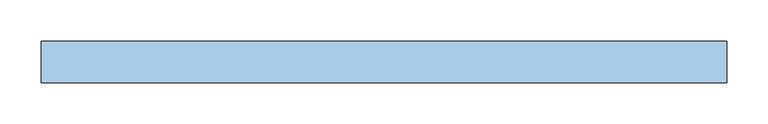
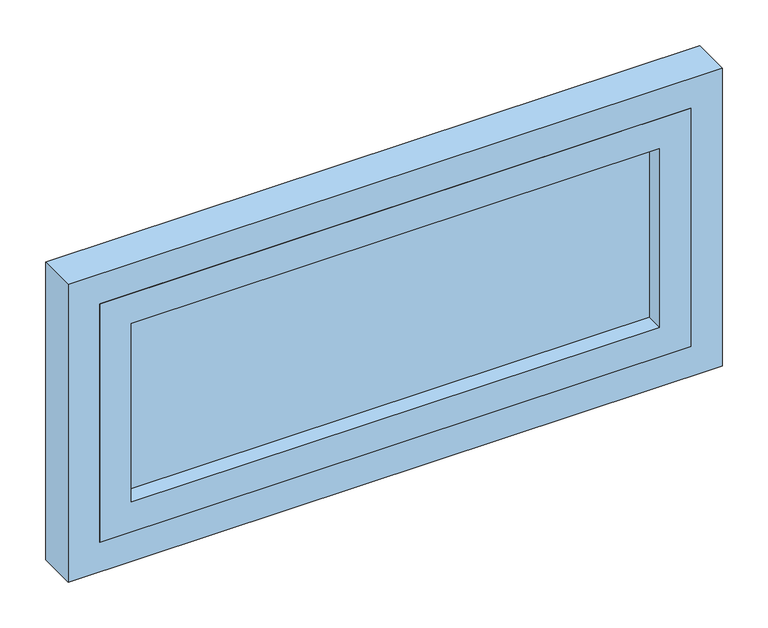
"""IFC4 building model written with IfcOpenShell, lengths in millimetres: window geometry, VENT_ALUM_PROY : VD-13b / PROY BAÑO 0.83 X 0.4."""

import ifcopenshell
import ifcopenshell.guid

model = None  # the IFC model being written
_history = None  # IfcOwnerHistory: only IFC2X3 demands one
_inside = {}  # id of a spatial element -> (the spatial element, [elements in it])
_under = {}  # id of a project, library or spatial element -> (it, [spatial elements below it])
_declared = {}  # id of a project -> (the project, [libraries it declares])
_typed = {}  # id of a type object -> (the type object, [elements of that type])
_made_of = {}  # id of a material, layer set ... -> (it, [elements and type objects made of it])


def new_model(schema):
    """Start an empty IFC model of exactly this schema.

    Asked for "IFC4X3", IfcOpenShell would pick the latest addendum, in which some entities
    have other attributes; the version numbers below select the first issue.
    IFC2X3 requires an IfcOwnerHistory on every rooted entity: one is made here for all.
    """
    global model, _history
    if schema == "IFC4X3":
        model = ifcopenshell.file(schema_version=(4, 3, 0, 0))
    else:
        model = ifcopenshell.file(schema=schema)
    _inside.clear()
    _under.clear()
    _declared.clear()
    _typed.clear()
    _made_of.clear()
    _history = None
    if model.schema == "IFC2X3":
        org = make("IfcOrganization", Name="unknown")
        user = make(
            "IfcPersonAndOrganization",
            ThePerson=make("IfcPerson", FamilyName="unknown"),
            TheOrganization=org,
        )
        app = make(
            "IfcApplication",
            ApplicationDeveloper=org,
            Version="unknown",
            ApplicationFullName="unknown",
            ApplicationIdentifier="unknown",
        )
        _history = make(
            "IfcOwnerHistory",
            OwningUser=user,
            OwningApplication=app,
            ChangeAction="ADDED",
            CreationDate=0,
        )
    return model


def make(cls, **values):
    """One entity of the class cls with the attributes given. An attribute that is None is left unset."""
    return model.create_entity(
        cls, **{name: value for name, value in values.items() if value is not None}
    )


def rooted(cls, **values):
    """An entity with a GlobalId (a new one), such as an element, a storey or a relation."""
    return make(cls, GlobalId=ifcopenshell.guid.new(), OwnerHistory=_history, **values)


def si_unit(unit_type, name, prefix=None):
    """IfcSIUnit, for example si_unit("LENGTHUNIT", "METRE", prefix="MILLI")."""
    return make("IfcSIUnit", UnitType=unit_type, Prefix=prefix, Name=name)


def assignment(units):
    """IfcUnitAssignment: the units of a project."""
    return None if units is None else make("IfcUnitAssignment", Units=units)


def point(xyz):
    """IfcCartesianPoint."""
    return None if xyz is None else make("IfcCartesianPoint", Coordinates=xyz)


def direction(xyz):
    """IfcDirection."""
    return None if xyz is None else make("IfcDirection", DirectionRatios=xyz)


def frame(location, z_axis=None, x_axis=None):
    """IfcAxis2Placement3D, a coordinate frame: its origin and axes. An axis left out is left unset."""
    return make(
        "IfcAxis2Placement3D",
        Location=point(location),
        Axis=direction(z_axis),
        RefDirection=direction(x_axis),
    )


def origin():
    """The frame at (0, 0, 0) with its axes left unset."""
    return frame((0.0, 0.0, 0.0))


def place(relative_to, where):
    """IfcLocalPlacement: puts the frame where relative to a parent placement (None: the world)."""
    return make(
        "IfcLocalPlacement", PlacementRelTo=relative_to, RelativePlacement=where
    )


def context(
    kind, dimensions, precision=None, world=None, true_north=None, identifier=None
):
    """IfcGeometricRepresentationContext, for example the 3D "Model" context."""
    return make(
        "IfcGeometricRepresentationContext",
        ContextIdentifier=identifier,
        ContextType=kind,
        CoordinateSpaceDimension=dimensions,
        Precision=precision,
        WorldCoordinateSystem=world,
        TrueNorth=true_north,
    )


def project(units=None, contexts=None):
    """IfcProject with its units and contexts."""
    return rooted(
        "IfcProject",
        Name="project",
        RepresentationContexts=contexts,
        UnitsInContext=assignment(units),
    )


def spatial(cls, under=None, at=None, **own):
    """A site, building, storey or space (cls), placed at a placement, below another one or the project."""
    s = rooted(cls, ObjectPlacement=at, **own)
    if under is not None:
        _under.setdefault(under.id(), (under, []))[1].append(s)
    return s


def polyline(points):
    """IfcPolyline through the points."""
    return make("IfcPolyline", Points=[point(p) for p in points])


def outline(outer, holes=None, kind="AREA"):
    """IfcArbitraryClosedProfileDef: a profile drawn as a closed curve; with holes, ...WithVoids."""
    if holes is None:
        return make("IfcArbitraryClosedProfileDef", ProfileType=kind, OuterCurve=outer)
    return make(
        "IfcArbitraryProfileDefWithVoids",
        ProfileType=kind,
        OuterCurve=outer,
        InnerCurves=holes,
    )


def extrude(swept, where, along, depth):
    """IfcExtrudedAreaSolid: the profile swept, set in the frame where, extruded along a direction by depth."""
    return make(
        "IfcExtrudedAreaSolid",
        SweptArea=swept,
        Position=where,
        ExtrudedDirection=direction(along),
        Depth=depth,
    )


def shape(context_of_items, identifier, shape_type, items):
    """IfcShapeRepresentation: the items that make up one representation, for example the "Body"."""
    return make(
        "IfcShapeRepresentation",
        ContextOfItems=context_of_items,
        RepresentationIdentifier=identifier,
        RepresentationType=shape_type,
        Items=items,
    )


def source(mapping_origin, context_of_items, identifier, shape_type, items):
    """IfcRepresentationMap: a shape defined once, which mapped items show again and again."""
    return make(
        "IfcRepresentationMap",
        MappingOrigin=mapping_origin,
        MappedRepresentation=shape(context_of_items, identifier, shape_type, items),
    )


def transform(
    local_origin,
    x_axis=None,
    y_axis=None,
    z_axis=None,
    scale=None,
    scale2=None,
    scale3=None,
    uniform=True,
):
    """IfcCartesianTransformationOperator3D, or its non-uniform kind. x_axis, y_axis, z_axis: its Axis1, 2, 3."""
    if uniform:
        return make(
            "IfcCartesianTransformationOperator3D",
            Axis1=direction(x_axis),
            Axis2=direction(y_axis),
            LocalOrigin=point(local_origin),
            Scale=scale,
            Axis3=direction(z_axis),
        )
    return make(
        "IfcCartesianTransformationOperator3DnonUniform",
        Axis1=direction(x_axis),
        Axis2=direction(y_axis),
        LocalOrigin=point(local_origin),
        Scale=scale,
        Axis3=direction(z_axis),
        Scale2=scale2,
        Scale3=scale3,
    )


def mapped(mapping_source, mapping_target):
    """IfcMappedItem: shows the shape of a source again, moved by a transform."""
    return make(
        "IfcMappedItem", MappingSource=mapping_source, MappingTarget=mapping_target
    )


def made_of(thing, what):
    """Note that an element or type object is made of a material, layer set ...; save() writes the relation."""
    if what is not None:
        _made_of.setdefault(what.id(), (what, []))[1].append(thing)
    return thing


def element(
    cls,
    number,
    at=None,
    inside=None,
    cuts=None,
    type_object=None,
    material=None,
    context=None,
    identifier="Body",
    shape_type=None,
    held_by="IfcProductDefinitionShape",
    body=None,
    shapes=None,
    **own,
):
    """One element of the class cls, such as IfcWall. Its Tag is "e" and its number.

    at: its placement. inside: the storey or other place that contains it. cuts: it is an
    opening in that element (IfcRelVoidsElement). A single representation is given by context,
    identifier, shape_type and body (its items); several are given by shapes. held_by: the class
    of the entity that holds the representations. save() writes the other relations.
    """
    e = rooted(cls, Tag="e%d" % number, ObjectPlacement=at, **own)
    if body is not None:
        shapes = [shape(context, identifier, shape_type, body)]
    if shapes is not None:
        e.Representation = make(held_by, Representations=shapes)
    if inside is not None:
        _inside.setdefault(inside.id(), (inside, []))[1].append(e)
    if cuts is not None:
        rooted(
            "IfcRelVoidsElement", RelatingBuildingElement=cuts, RelatedOpeningElement=e
        )
    if type_object is not None:
        _typed.setdefault(type_object.id(), (type_object, []))[1].append(e)
    return made_of(e, material)


def aggregate(whole, parts):
    """IfcRelAggregates: a whole, such as a stair, and the parts it consists of."""
    return rooted("IfcRelAggregates", RelatingObject=whole, RelatedObjects=parts)


def save(model, path):
    """Write the relations noted so far, then the file.

    IfcRelAggregates (storeys below a building ...), IfcRelContainedInSpatialStructure (elements
    in a storey), IfcRelDefinesByType, IfcRelAssociatesMaterial and IfcRelDeclares: one each for
    every whole, place, type object, material and project.
    """
    for whole, parts in _under.values():
        aggregate(whole, parts)
    for where, things in _inside.values():
        rooted(
            "IfcRelContainedInSpatialStructure",
            RelatedElements=things,
            RelatingStructure=where,
        )
    for kind, things in _typed.values():
        rooted("IfcRelDefinesByType", RelatedObjects=things, RelatingType=kind)
    for what, things in _made_of.values():
        rooted("IfcRelAssociatesMaterial", RelatedObjects=things, RelatingMaterial=what)
    for by, libraries in _declared.values():
        rooted("IfcRelDeclares", RelatingContext=by, RelatedDefinitions=libraries)
    model.write(path)


def window_d2f72dd6(model_context):
    return source(origin(), model_context, "Body", "SweptSolid", [
        extrude(outline(polyline([(1160.0, -375.0), (840.0, -375.0), (840.0, 375.0), (1160.0, 375.0), (1160.0, -375.0)]), holes=[polyline([(880.0, -335.0), (1120.0, -335.0), (1120.0, 335.0), (880.0, 335.0), (880.0, -335.0)])]), frame((0.0, -25.0, 0.0), z_axis=(0.0, 1.0, 0.0), x_axis=(0.0, 0.0, 1.0)), (0.0, 0.0, 1.0), 50.0),
        extrude(outline(polyline([(335.0, 3.0), (335.0, -3.0), (-335.0, -3.0), (-335.0, 3.0), (335.0, 3.0)])), frame((0.0, 0.0, 880.0), z_axis=(0.0, 0.0, 1.0), x_axis=(1.0, 0.0, 0.0)), (0.0, 0.0, 1.0), 240.0),
        extrude(outline(polyline([(1200.0, -415.0), (800.0, -415.0), (800.0, 415.0), (1200.0, 415.0), (1200.0, -415.0)]), holes=[polyline([(840.0, -375.0), (1160.0, -375.0), (1160.0, 375.0), (840.0, 375.0), (840.0, -375.0)])]), frame((0.0, -25.0, 0.0), z_axis=(0.0, 1.0, 0.0), x_axis=(0.0, 0.0, 1.0)), (0.0, 0.0, 1.0), 50.0),
    ])


if __name__ == "__main__":
    model = new_model("IFC4")
    model_context = context("Model", 3, world=origin())
    ifc_project = project(units=[si_unit("LENGTHUNIT", "METRE", prefix="MILLI")], contexts=[model_context])
    site = spatial("IfcSite", under=ifc_project)
    building = spatial("IfcBuilding", under=site)
    placement = place(None, origin())
    window_shape = window_d2f72dd6(model_context)
    element("IfcWindow", 1, ObjectType="VENT_ALUM_PROY : VD-13b / PROY BAÑO 0.83 X 0.4", at=placement, inside=building, context=model_context, shape_type="MappedRepresentation", body=[
        mapped(window_shape, transform((0.0, 0.0, 0.0), x_axis=(1.0, 0.0, 0.0), y_axis=(0.0, 1.0, 0.0), z_axis=(0.0, 0.0, 1.0))),
    ])
    save(model, "model.ifc")
